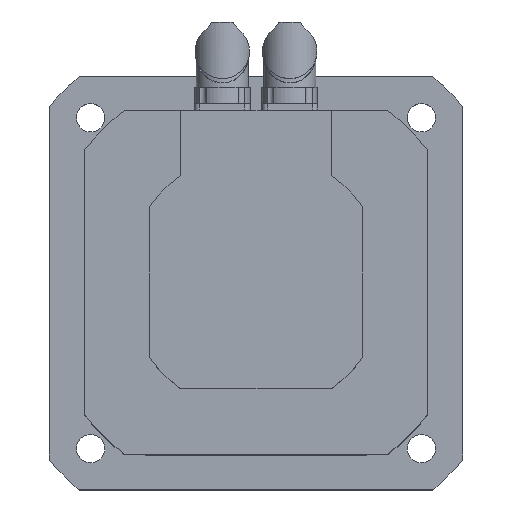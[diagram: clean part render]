
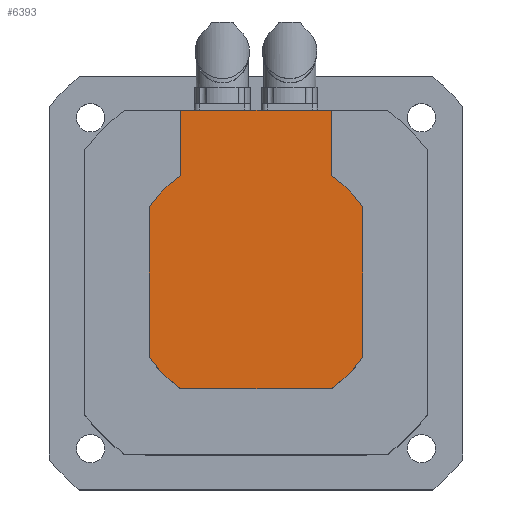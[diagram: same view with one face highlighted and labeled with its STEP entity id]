
A CAD part, top view. The second image highlights one B-rep face of the part: STEP entity #6393.
In plain terms, the highlighted planar face has unit normal (0, 0, 1).
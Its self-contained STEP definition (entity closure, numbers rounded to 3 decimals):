
#6141=CARTESIAN_POINT('',(-49.,-34.627,45.0));
#6142=VERTEX_POINT('',#6141);
#6149=CARTESIAN_POINT('',(-49.,34.627,45.0));
#6150=VERTEX_POINT('',#6149);
#6151=CARTESIAN_POINT('',(-49.,34.627,45.0));
#6152=DIRECTION('',(0.0,-1.0,0.0));
#6153=VECTOR('',#6152,69.253);
#6154=LINE('',#6151,#6153);
#6155=EDGE_CURVE('',#6150,#6142,#6154,.T.);
#6174=CARTESIAN_POINT('',(49.0,34.627,45.0));
#6175=VERTEX_POINT('',#6174);
#6182=CARTESIAN_POINT('',(49.0,-34.627,45.0));
#6183=VERTEX_POINT('',#6182);
#6184=CARTESIAN_POINT('',(49.0,-34.627,45.0));
#6185=DIRECTION('',(0.0,1.0,0.0));
#6186=VECTOR('',#6185,69.253);
#6187=LINE('',#6184,#6186);
#6188=EDGE_CURVE('',#6183,#6175,#6187,.T.);
#6211=CARTESIAN_POINT('',(34.627,-49.,45.0));
#6212=VERTEX_POINT('',#6211);
#6219=CARTESIAN_POINT('',(-34.627,-49.,45.0));
#6220=VERTEX_POINT('',#6219);
#6221=CARTESIAN_POINT('',(-34.627,-49.,45.0));
#6222=DIRECTION('',(1.0,0.0,0.0));
#6223=VECTOR('',#6222,69.253);
#6224=LINE('',#6221,#6223);
#6225=EDGE_CURVE('',#6220,#6212,#6224,.T.);
#6243=CARTESIAN_POINT('',(0.0,0.0,45.0));
#6244=DIRECTION('',(0.0,0.0,-1.0));
#6245=DIRECTION('',(-1.0,0.0,0.0));
#6246=AXIS2_PLACEMENT_3D('',#6243,#6244,#6245);
#6247=CIRCLE('',#6246,60.0);
#6248=EDGE_CURVE('',#6183,#6212,#6247,.T.);
#6262=CARTESIAN_POINT('',(34.627,49.0,45.0));
#6263=VERTEX_POINT('',#6262);
#6270=CARTESIAN_POINT('',(0.0,0.0,45.0));
#6271=DIRECTION('',(0.0,0.0,-1.0));
#6272=DIRECTION('',(-1.0,0.0,0.0));
#6273=AXIS2_PLACEMENT_3D('',#6270,#6271,#6272);
#6274=CIRCLE('',#6273,60.0);
#6275=EDGE_CURVE('',#6263,#6175,#6274,.T.);
#6286=CARTESIAN_POINT('',(-34.627,49.0,45.0));
#6287=VERTEX_POINT('',#6286);
#6288=CARTESIAN_POINT('',(0.0,0.0,45.0));
#6289=DIRECTION('',(0.0,0.0,-1.0));
#6290=DIRECTION('',(-1.0,0.0,0.0));
#6291=AXIS2_PLACEMENT_3D('',#6288,#6289,#6290);
#6292=CIRCLE('',#6291,60.0);
#6293=EDGE_CURVE('',#6150,#6287,#6292,.T.);
#6313=CARTESIAN_POINT('',(0.0,0.0,45.0));
#6314=DIRECTION('',(0.0,0.0,-1.0));
#6315=DIRECTION('',(-1.0,0.0,0.0));
#6316=AXIS2_PLACEMENT_3D('',#6313,#6314,#6315);
#6317=CIRCLE('',#6316,60.0);
#6318=EDGE_CURVE('',#6220,#6142,#6317,.T.);
#6329=CARTESIAN_POINT('',(-34.627,79.0,45.0));
#6330=VERTEX_POINT('',#6329);
#6331=CARTESIAN_POINT('',(-34.627,49.0,45.0));
#6332=DIRECTION('',(0.0,1.0,0.0));
#6333=VECTOR('',#6332,30.0);
#6334=LINE('',#6331,#6333);
#6335=EDGE_CURVE('',#6287,#6330,#6334,.T.);
#6354=CARTESIAN_POINT('',(34.627,79.0,45.0));
#6355=VERTEX_POINT('',#6354);
#6362=CARTESIAN_POINT('',(34.627,49.0,45.0));
#6363=DIRECTION('',(0.0,1.0,0.0));
#6364=VECTOR('',#6363,30.0);
#6365=LINE('',#6362,#6364);
#6366=EDGE_CURVE('',#6263,#6355,#6365,.T.);
#6371=CARTESIAN_POINT('',(49.,-49.,45.0));
#6372=DIRECTION('',(0.0,0.0,-1.0));
#6373=DIRECTION('',(-1.0,0.0,0.0));
#6374=AXIS2_PLACEMENT_3D('',#6371,#6372,#6373);
#6375=PLANE('',#6374);
#6376=ORIENTED_EDGE('',*,*,#6293,.F.);
#6377=ORIENTED_EDGE('',*,*,#6155,.T.);
#6378=ORIENTED_EDGE('',*,*,#6318,.F.);
#6379=ORIENTED_EDGE('',*,*,#6225,.T.);
#6380=ORIENTED_EDGE('',*,*,#6248,.F.);
#6381=ORIENTED_EDGE('',*,*,#6188,.T.);
#6382=ORIENTED_EDGE('',*,*,#6275,.F.);
#6383=ORIENTED_EDGE('',*,*,#6366,.T.);
#6384=CARTESIAN_POINT('',(-34.627,79.0,45.0));
#6385=DIRECTION('',(1.0,0.0,0.0));
#6386=VECTOR('',#6385,69.253);
#6387=LINE('',#6384,#6386);
#6388=EDGE_CURVE('',#6330,#6355,#6387,.T.);
#6389=ORIENTED_EDGE('',*,*,#6388,.F.);
#6390=ORIENTED_EDGE('',*,*,#6335,.F.);
#6391=EDGE_LOOP('',(#6376,#6377,#6378,#6379,#6380,#6381,#6382,#6383,#6389,#6390));
#6392=FACE_OUTER_BOUND('',#6391,.T.);
#6393=ADVANCED_FACE('',(#6392),#6375,.F.);
